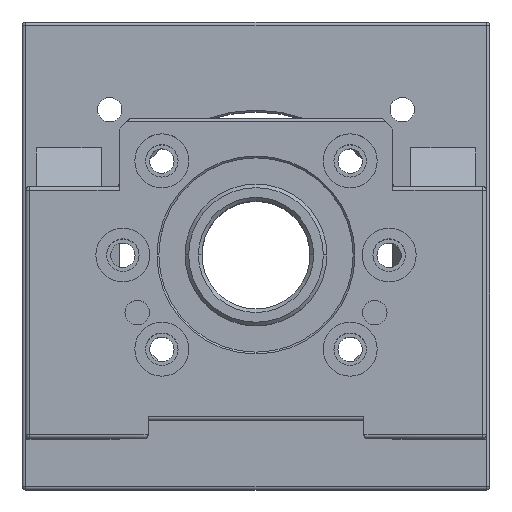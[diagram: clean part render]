
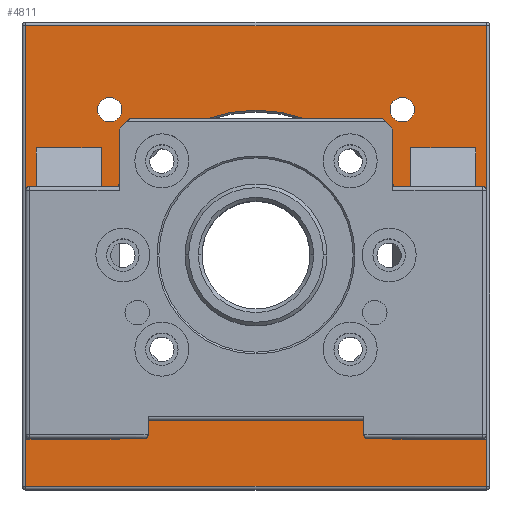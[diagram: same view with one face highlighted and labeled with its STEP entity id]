
A CAD part, top view. The second image highlights one B-rep face of the part: STEP entity #4811.
In plain terms, the highlighted planar face has unit normal (0, 0, 1).
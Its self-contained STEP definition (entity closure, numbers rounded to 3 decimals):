
#1564=DIRECTION('',(-1.,0.,0.));
#1565=VECTOR('',#1564,18.);
#1566=CARTESIAN_POINT('',(61.,30.,20.));
#1567=LINE('',#1566,#1565);
#1579=DIRECTION('',(0.,-1.,0.));
#1580=VECTOR('',#1579,68.193);
#1581=CARTESIAN_POINT('',(43.,30.,20.));
#1582=LINE('',#1581,#1580);
#1591=DIRECTION('',(0.,-1.,0.));
#1592=VECTOR('',#1591,6.876);
#1593=CARTESIAN_POINT('',(43.,-43.124,20.));
#1594=LINE('',#1593,#1592);
#1595=CARTESIAN_POINT('',(-40.659,-40.659,20.));
#1596=DIRECTION('',(0.,0.,-1.));
#1597=DIRECTION('',(-0.689,0.725,0.));
#1598=AXIS2_PLACEMENT_3D('',#1595,#1596,#1597);
#1600=DIRECTION('',(-1.,0.,0.));
#1601=VECTOR('',#1600,17.);
#1602=CARTESIAN_POINT('',(-44.,-51.,20.));
#1603=LINE('',#1602,#1601);
#1604=CARTESIAN_POINT('',(-44.,-50.,20.));
#1605=DIRECTION('',(0.,0.,-1.));
#1606=DIRECTION('',(1.,0.,0.));
#1607=AXIS2_PLACEMENT_3D('',#1604,#1605,#1606);
#1609=CARTESIAN_POINT('',(-40.659,-40.659,20.));
#1610=DIRECTION('',(0.,0.,-1.));
#1611=DIRECTION('',(1.,0.,0.));
#1612=AXIS2_PLACEMENT_3D('',#1609,#1610,#1611);
#1614=CARTESIAN_POINT('',(40.659,-40.659,20.));
#1615=DIRECTION('',(0.,0.,-1.));
#1616=DIRECTION('',(-1.,0.,0.));
#1617=AXIS2_PLACEMENT_3D('',#1614,#1615,#1616);
#1619=CARTESIAN_POINT('',(40.659,-40.659,20.));
#1620=DIRECTION('',(0.,0.,-1.));
#1621=DIRECTION('',(0.689,-0.725,0.));
#1622=AXIS2_PLACEMENT_3D('',#1619,#1620,#1621);
#1624=CARTESIAN_POINT('',(44.,-50.,20.));
#1625=DIRECTION('',(0.,0.,-1.));
#1626=DIRECTION('',(0.,-1.,0.));
#1627=AXIS2_PLACEMENT_3D('',#1624,#1625,#1626);
#1629=DIRECTION('',(-1.,0.,0.));
#1630=VECTOR('',#1629,16.);
#1631=CARTESIAN_POINT('',(60.,-51.,20.));
#1632=LINE('',#1631,#1630);
#1633=CARTESIAN_POINT('',(60.,-50.,20.));
#1634=DIRECTION('',(0.,0.,-1.));
#1635=DIRECTION('',(1.,0.,0.));
#1636=AXIS2_PLACEMENT_3D('',#1633,#1634,#1635);
#1638=CARTESIAN_POINT('',(40.659,40.659,20.));
#1639=DIRECTION('',(0.,0.,-1.));
#1640=DIRECTION('',(-1.,0.,0.));
#1641=AXIS2_PLACEMENT_3D('',#1638,#1639,#1640);
#1643=CARTESIAN_POINT('',(40.659,40.659,20.));
#1644=DIRECTION('',(0.,0.,-1.));
#1645=DIRECTION('',(1.,0.,0.));
#1646=AXIS2_PLACEMENT_3D('',#1643,#1644,#1645);
#1648=CARTESIAN_POINT('',(-40.659,40.659,20.));
#1649=DIRECTION('',(0.,0.,-1.));
#1650=DIRECTION('',(-1.,0.,0.));
#1651=AXIS2_PLACEMENT_3D('',#1648,#1649,#1650);
#1653=CARTESIAN_POINT('',(-40.659,40.659,20.));
#1654=DIRECTION('',(0.,0.,-1.));
#1655=DIRECTION('',(1.,0.,0.));
#1656=AXIS2_PLACEMENT_3D('',#1653,#1654,#1655);
#1658=CARTESIAN_POINT('',(0.,0.,20.));
#1659=DIRECTION('',(0.,0.,-1.));
#1660=DIRECTION('',(1.,0.,0.));
#1661=AXIS2_PLACEMENT_3D('',#1658,#1659,#1660);
#1663=CARTESIAN_POINT('',(0.,0.,20.));
#1664=DIRECTION('',(0.,0.,-1.));
#1665=DIRECTION('',(-1.,0.,0.));
#1666=AXIS2_PLACEMENT_3D('',#1663,#1664,#1665);
#1668=DIRECTION('',(0.,1.,0.));
#1669=VECTOR('',#1668,128.);
#1670=CARTESIAN_POINT('',(-64.,-64.,20.));
#1671=LINE('',#1670,#1669);
#1691=DIRECTION('',(1.,0.,0.));
#1692=VECTOR('',#1691,128.);
#1693=CARTESIAN_POINT('',(-64.,64.,20.));
#1694=LINE('',#1693,#1692);
#1869=DIRECTION('',(-1.,0.,0.));
#1870=VECTOR('',#1869,128.);
#1871=CARTESIAN_POINT('',(64.,-64.,20.));
#1872=LINE('',#1871,#1870);
#1915=DIRECTION('',(0.,-1.,0.));
#1916=VECTOR('',#1915,128.);
#1917=CARTESIAN_POINT('',(64.,64.,20.));
#1918=LINE('',#1917,#1916);
#1972=DIRECTION('',(0.,1.,0.));
#1973=VECTOR('',#1972,6.876);
#1974=CARTESIAN_POINT('',(-43.,-50.,20.));
#1975=LINE('',#1974,#1973);
#1984=DIRECTION('',(0.,1.,0.));
#1985=VECTOR('',#1984,68.193);
#1986=CARTESIAN_POINT('',(-43.,-38.193,20.));
#1987=LINE('',#1986,#1985);
#2413=DIRECTION('',(0.,-1.,0.));
#2414=VECTOR('',#2413,81.);
#2415=CARTESIAN_POINT('',(-61.,30.,20.));
#2416=LINE('',#2415,#2414);
#2421=DIRECTION('',(-1.,0.,0.));
#2422=VECTOR('',#2421,18.);
#2423=CARTESIAN_POINT('',(-43.,30.,20.));
#2424=LINE('',#2423,#2422);
#2635=CARTESIAN_POINT('',(43.,-38.193,20.));
#2962=DIRECTION('',(0.,1.,0.));
#2963=VECTOR('',#2962,80.);
#2964=CARTESIAN_POINT('',(61.,-50.,20.));
#2965=LINE('',#2964,#2963);
#3482=CARTESIAN_POINT('',(-43.,-43.124,20.));
#3484=VERTEX_POINT('',#3482);
#3496=CARTESIAN_POINT('',(60.,-51.,20.));
#3497=CARTESIAN_POINT('',(44.,-51.,20.));
#3498=VERTEX_POINT('',#3496);
#3499=VERTEX_POINT('',#3497);
#3504=CARTESIAN_POINT('',(-43.,-38.193,20.));
#3505=VERTEX_POINT('',#3504);
#3522=CARTESIAN_POINT('',(40.5,0.,20.));
#3524=VERTEX_POINT('',#3522);
#3559=CARTESIAN_POINT('',(43.,-43.124,20.));
#3560=CARTESIAN_POINT('',(37.259,-40.659,20.));
#3561=VERTEX_POINT('',#3559);
#3562=VERTEX_POINT('',#3560);
#3577=CARTESIAN_POINT('',(-40.5,0.,20.));
#3579=VERTEX_POINT('',#3577);
#3617=CARTESIAN_POINT('',(-44.,-51.,20.));
#3619=VERTEX_POINT('',#3617);
#3622=CARTESIAN_POINT('',(-61.,-51.,20.));
#3624=VERTEX_POINT('',#3622);
#3673=CARTESIAN_POINT('',(-37.259,40.659,20.));
#3674=CARTESIAN_POINT('',(-44.059,40.659,20.));
#3675=VERTEX_POINT('',#3673);
#3676=VERTEX_POINT('',#3674);
#3708=CARTESIAN_POINT('',(44.059,40.659,20.));
#3710=VERTEX_POINT('',#3708);
#3737=CARTESIAN_POINT('',(64.,-64.,20.));
#3738=CARTESIAN_POINT('',(-64.,-64.,20.));
#3739=VERTEX_POINT('',#3737);
#3740=VERTEX_POINT('',#3738);
#3821=CARTESIAN_POINT('',(43.,-50.,20.));
#3822=VERTEX_POINT('',#3821);
#3827=CARTESIAN_POINT('',(-37.259,-40.659,20.));
#3828=VERTEX_POINT('',#3827);
#3838=CARTESIAN_POINT('',(64.,64.,20.));
#3839=VERTEX_POINT('',#3838);
#3844=CARTESIAN_POINT('',(-43.,-50.,20.));
#3846=VERTEX_POINT('',#3844);
#3848=CARTESIAN_POINT('',(-64.,64.,20.));
#3849=VERTEX_POINT('',#3848);
#3855=VERTEX_POINT('',#2635);
#3872=CARTESIAN_POINT('',(37.259,40.659,20.));
#3873=VERTEX_POINT('',#3872);
#3924=CARTESIAN_POINT('',(-43.,30.,20.));
#3925=CARTESIAN_POINT('',(-61.,30.,20.));
#3926=VERTEX_POINT('',#3924);
#3927=VERTEX_POINT('',#3925);
#3930=CARTESIAN_POINT('',(61.,30.,20.));
#3931=VERTEX_POINT('',#3930);
#3979=CARTESIAN_POINT('',(43.,30.,20.));
#3980=VERTEX_POINT('',#3979);
#4002=CARTESIAN_POINT('',(61.,-50.,20.));
#4003=VERTEX_POINT('',#4002);
#4743=CARTESIAN_POINT('',(0.,0.,20.));
#4744=DIRECTION('',(0.,0.,1.));
#4745=DIRECTION('',(1.,0.,0.));
#4746=AXIS2_PLACEMENT_3D('',#4743,#4744,#4745);
#4747=PLANE('',#4746);
#4749=ORIENTED_EDGE('',*,*,#4748,.T.);
#4751=ORIENTED_EDGE('',*,*,#4750,.T.);
#4753=ORIENTED_EDGE('',*,*,#4752,.T.);
#4755=ORIENTED_EDGE('',*,*,#4754,.T.);
#4756=EDGE_LOOP('',(#4749,#4751,#4753,#4755));
#4757=FACE_OUTER_BOUND('',#4756,.F.);
#4759=ORIENTED_EDGE('',*,*,#4758,.F.);
#4761=ORIENTED_EDGE('',*,*,#4760,.T.);
#4763=ORIENTED_EDGE('',*,*,#4762,.T.);
#4765=ORIENTED_EDGE('',*,*,#4764,.T.);
#4767=ORIENTED_EDGE('',*,*,#4766,.F.);
#4769=ORIENTED_EDGE('',*,*,#4768,.F.);
#4771=ORIENTED_EDGE('',*,*,#4770,.T.);
#4773=ORIENTED_EDGE('',*,*,#4772,.F.);
#4774=EDGE_LOOP('',(#4759,#4761,#4763,#4765,#4767,#4769,#4771,#4773));
#4775=FACE_BOUND('',#4774,.F.);
#4777=ORIENTED_EDGE('',*,*,#4776,.F.);
#4779=ORIENTED_EDGE('',*,*,#4778,.F.);
#4780=ORIENTED_EDGE('',*,*,#4734,.T.);
#4782=ORIENTED_EDGE('',*,*,#4781,.F.);
#4784=ORIENTED_EDGE('',*,*,#4783,.F.);
#4786=ORIENTED_EDGE('',*,*,#4785,.F.);
#4788=ORIENTED_EDGE('',*,*,#4787,.T.);
#4789=ORIENTED_EDGE('',*,*,#4708,.T.);
#4790=ORIENTED_EDGE('',*,*,#4725,.T.);
#4791=EDGE_LOOP('',(#4777,#4779,#4780,#4782,#4784,#4786,#4788,#4789,#4790));
#4792=FACE_BOUND('',#4791,.F.);
#4794=ORIENTED_EDGE('',*,*,#4793,.F.);
#4796=ORIENTED_EDGE('',*,*,#4795,.F.);
#4797=EDGE_LOOP('',(#4794,#4796));
#4798=FACE_BOUND('',#4797,.F.);
#4800=ORIENTED_EDGE('',*,*,#4799,.F.);
#4802=ORIENTED_EDGE('',*,*,#4801,.F.);
#4803=EDGE_LOOP('',(#4800,#4802));
#4804=FACE_BOUND('',#4803,.F.);
#4806=ORIENTED_EDGE('',*,*,#4805,.F.);
#4808=ORIENTED_EDGE('',*,*,#4807,.F.);
#4809=EDGE_LOOP('',(#4806,#4808));
#4810=FACE_BOUND('',#4809,.F.);
#1599=CIRCLE('',#1598,3.4);
#1608=CIRCLE('',#1607,1.);
#1613=CIRCLE('',#1612,3.4);
#1618=CIRCLE('',#1617,3.4);
#1623=CIRCLE('',#1622,3.4);
#1628=CIRCLE('',#1627,1.);
#1637=CIRCLE('',#1636,1.);
#1642=CIRCLE('',#1641,3.4);
#1647=CIRCLE('',#1646,3.4);
#1652=CIRCLE('',#1651,3.4);
#1657=CIRCLE('',#1656,3.4);
#1662=CIRCLE('',#1661,40.5);
#1667=CIRCLE('',#1666,40.5);
#4708=EDGE_CURVE('',#3931,#3980,#1567,.T.);
#4725=EDGE_CURVE('',#3980,#3855,#1582,.T.);
#4734=EDGE_CURVE('',#3561,#3822,#1594,.T.);
#4748=EDGE_CURVE('',#3740,#3849,#1671,.T.);
#4750=EDGE_CURVE('',#3849,#3839,#1694,.T.);
#4752=EDGE_CURVE('',#3839,#3739,#1918,.T.);
#4754=EDGE_CURVE('',#3739,#3740,#1872,.T.);
#4758=EDGE_CURVE('',#3505,#3828,#1599,.T.);
#4760=EDGE_CURVE('',#3505,#3926,#1987,.T.);
#4762=EDGE_CURVE('',#3926,#3927,#2424,.T.);
#4764=EDGE_CURVE('',#3927,#3624,#2416,.T.);
#4766=EDGE_CURVE('',#3619,#3624,#1603,.T.);
#4768=EDGE_CURVE('',#3846,#3619,#1608,.T.);
#4770=EDGE_CURVE('',#3846,#3484,#1975,.T.);
#4772=EDGE_CURVE('',#3828,#3484,#1613,.T.);
#4776=EDGE_CURVE('',#3562,#3855,#1618,.T.);
#4778=EDGE_CURVE('',#3561,#3562,#1623,.T.);
#4781=EDGE_CURVE('',#3499,#3822,#1628,.T.);
#4783=EDGE_CURVE('',#3498,#3499,#1632,.T.);
#4785=EDGE_CURVE('',#4003,#3498,#1637,.T.);
#4787=EDGE_CURVE('',#4003,#3931,#2965,.T.);
#4793=EDGE_CURVE('',#3873,#3710,#1642,.T.);
#4795=EDGE_CURVE('',#3710,#3873,#1647,.T.);
#4799=EDGE_CURVE('',#3676,#3675,#1652,.T.);
#4801=EDGE_CURVE('',#3675,#3676,#1657,.T.);
#4805=EDGE_CURVE('',#3524,#3579,#1662,.T.);
#4807=EDGE_CURVE('',#3579,#3524,#1667,.T.);
#4811=ADVANCED_FACE('',(#4757,#4775,#4792,#4798,#4804,#4810),#4747,.T.);
